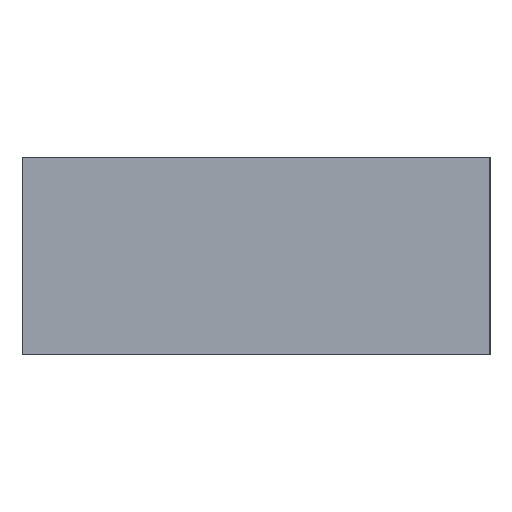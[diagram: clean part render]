
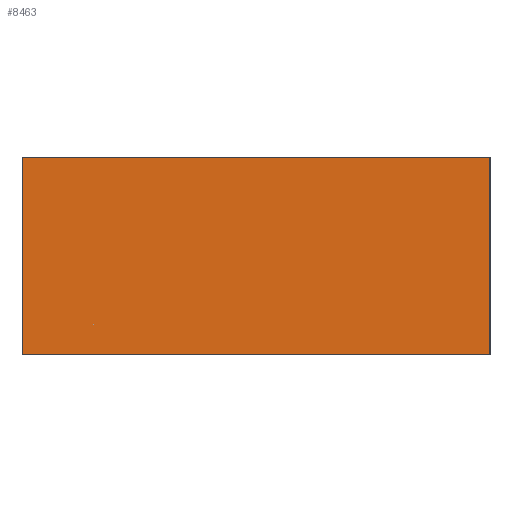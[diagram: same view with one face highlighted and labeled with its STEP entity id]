
A CAD part, left-side view. The second image highlights one B-rep face of the part: STEP entity #8463.
In plain terms, the highlighted planar face has unit normal (-1, 0, 0).
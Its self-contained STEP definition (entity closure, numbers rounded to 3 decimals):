
#1100=ORIENTED_EDGE('',*,*,#2275,.T.);
#1101=ORIENTED_EDGE('',*,*,#2276,.F.);
#1102=ORIENTED_EDGE('',*,*,#2277,.F.);
#1103=ORIENTED_EDGE('',*,*,#1985,.T.);
#1985=EDGE_CURVE('',#2641,#2640,#3164,.T.);
#2275=EDGE_CURVE('',#2640,#2889,#3247,.T.);
#2276=EDGE_CURVE('',#2890,#2889,#3248,.T.);
#2277=EDGE_CURVE('',#2641,#2890,#3249,.T.);
#2640=VERTEX_POINT('',#11449);
#2641=VERTEX_POINT('',#11451);
#2889=VERTEX_POINT('',#12293);
#2890=VERTEX_POINT('',#12295);
#3164=LINE('',#11450,#3401);
#3247=LINE('',#12292,#3484);
#3248=LINE('',#12294,#3485);
#3249=LINE('',#12296,#3486);
#3401=VECTOR('',#9559,1000.);
#3484=VECTOR('',#10394,1000.);
#3485=VECTOR('',#10395,1000.);
#3486=VECTOR('',#10396,1000.);
#3866=EDGE_LOOP('',(#1100,#1101,#1102,#1103));
#4587=FACE_BOUND('',#3866,.T.);
#5147=PLANE('',#9095);
#8463=ADVANCED_FACE('',(#4587),#5147,.F.);
#9095=AXIS2_PLACEMENT_3D('',#12291,#10392,#10393);
#9559=DIRECTION('',(0.,0.,-1.));
#10392=DIRECTION('',(1.,0.,0.));
#10393=DIRECTION('',(0.,0.,-1.));
#10394=DIRECTION('',(0.,-1.,0.));
#10395=DIRECTION('',(0.,0.,-1.));
#10396=DIRECTION('',(0.,-1.,0.));
#11449=CARTESIAN_POINT('',(-45.,32.5,0.));
#11450=CARTESIAN_POINT('',(-45.,32.5,15.));
#11451=CARTESIAN_POINT('',(-45.,32.5,27.4));
#12291=CARTESIAN_POINT('',(-45.,32.5,15.));
#12292=CARTESIAN_POINT('',(-45.,32.5,0.));
#12293=CARTESIAN_POINT('',(-45.,-32.5,0.));
#12294=CARTESIAN_POINT('',(-45.,-32.5,15.));
#12295=CARTESIAN_POINT('',(-45.,-32.5,27.4));
#12296=CARTESIAN_POINT('',(-45.,32.5,27.4));
